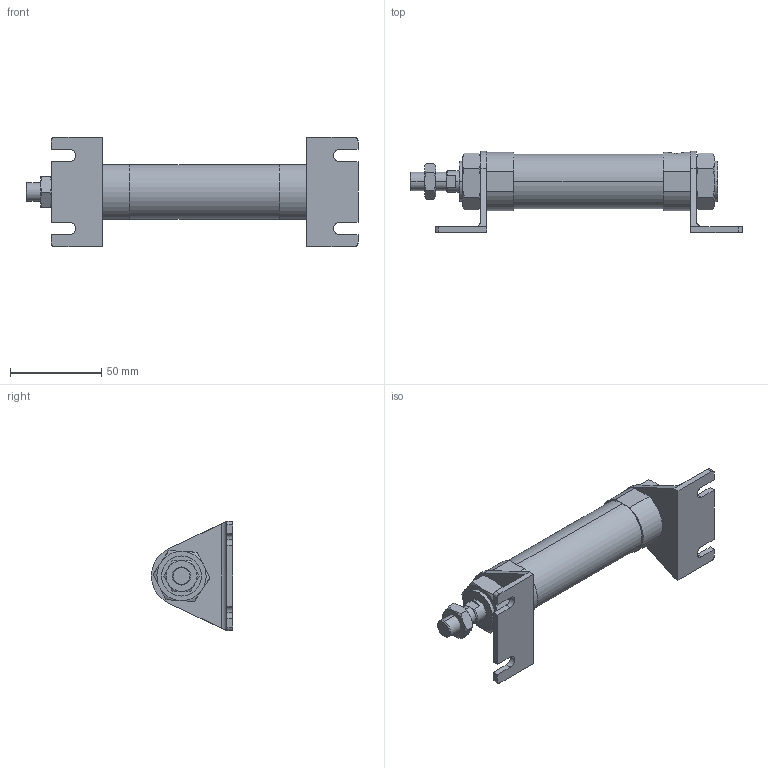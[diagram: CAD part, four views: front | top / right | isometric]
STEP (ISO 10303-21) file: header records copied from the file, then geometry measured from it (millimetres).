
FILE_DESCRIPTION (( 'STEP AP203' ), '1' );
FILE_NAME ('J#1-25-25-L.STEP', '2016-03-10T00:46:08', ( '' ), ( '' ), 'SwSTEP 2.0', 'SolidWorks 2014', '' );
FILE_SCHEMA (( 'CONFIG_CONTROL_DESIGN' ));
Length unit declared in the file: millimetre
Products named in the file (5): J#1-25-25-L; J#2-25-L; J#1-25-25
Assembly tree (6 placements, depth 2):
  J#1-25-25-L
    J#1-25-25
    (unnamed)
    (unnamed)  x2
    J#2-25-L  x2
Bounding box: 182.2 x 44.5 x 60 mm (x, y, z)
Volume: 119234.6 mm3; surface area: 34181 mm2
Topology: 6 solids, 6 shells, 167 faces, 392 edges, 241 vertices
Faces by surface type: plane 75, cylinder 48, torus 36, cone 8
Entity records: 4187 total; most frequent: CARTESIAN_POINT 947, DIRECTION 572, ORIENTED_EDGE 544, EDGE_CURVE 272, AXIS2_PLACEMENT_3D 228, VERTEX_POINT 167, EDGE_LOOP 131, FACE_OUTER_BOUND 119
